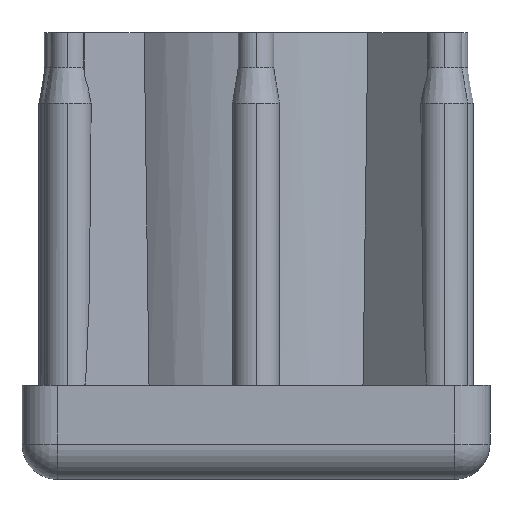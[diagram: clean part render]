
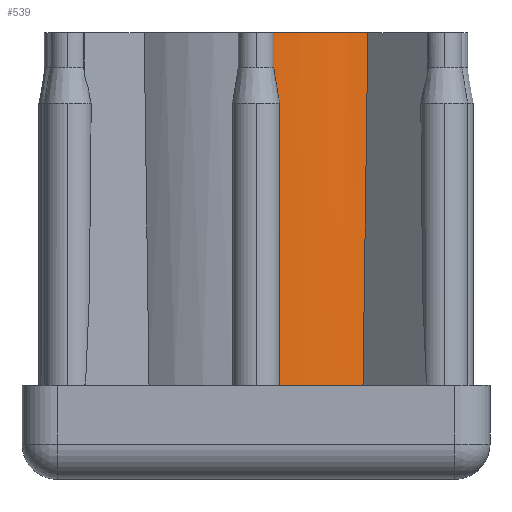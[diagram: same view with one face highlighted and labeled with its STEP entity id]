
A CAD part, left-side view. The second image highlights one B-rep face of the part: STEP entity #539.
In plain terms, the highlighted cylindrical face has radius 15 mm (diameter 30 mm), a partial arc.
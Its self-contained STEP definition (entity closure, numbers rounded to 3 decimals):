
#35 = AXIS2_PLACEMENT_3D ( 'NONE', #254, #3455, #2035 ) ;
#51 = VERTEX_POINT ( 'NONE', #741 ) ;
#65 = AXIS2_PLACEMENT_3D ( 'NONE', #1742, #2823, #3172 ) ;
#166 = ORIENTED_EDGE ( 'NONE', *, *, #4177, .F. ) ;
#254 = CARTESIAN_POINT ( 'NONE',  ( 0., 0., 0. ) ) ;
#310 = CARTESIAN_POINT ( 'NONE',  ( -11.599, -9.511, 30. ) ) ;
#427 = DIRECTION ( 'NONE',  ( -1., 0., 0. ) ) ;
#431 = VERTEX_POINT ( 'NONE', #3173 ) ;
#539 = ADVANCED_FACE ( 'NONE', ( #3054 ), #2441, .T. ) ;
#623 = CIRCLE ( 'NONE', #65, 15. ) ;
#741 = CARTESIAN_POINT ( 'NONE',  ( -11.926, -9.098, 0. ) ) ;
#819 = EDGE_LOOP ( 'NONE', ( #2950, #1706, #166, #4489 ) ) ;
#1323 = EDGE_CURVE ( 'NONE', #431, #51, #3972, .T. ) ;
#1666 =( BOUNDED_CURVE ( )  B_SPLINE_CURVE ( 3, ( #310, #2768, #1682, #1738 ),
 .UNSPECIFIED., .F., .T. ) 
 B_SPLINE_CURVE_WITH_KNOTS ( ( 4, 4 ),
 ( -1., 0. ),
 .UNSPECIFIED. ) 
 CURVE ( )  GEOMETRIC_REPRESENTATION_ITEM ( )  RATIONAL_B_SPLINE_CURVE ( ( 1., 1., 1., 1. ) ) 
 REPRESENTATION_ITEM ( '' )  );
#1682 = CARTESIAN_POINT ( 'NONE',  ( -11.82, -9.237, 9.979 ) ) ;
#1706 = ORIENTED_EDGE ( 'NONE', *, *, #1323, .T. ) ;
#1738 = CARTESIAN_POINT ( 'NONE',  ( -11.926, -9.098, 0. ) ) ;
#1742 = CARTESIAN_POINT ( 'NONE',  ( 0., 0., 30. ) ) ;
#1854 = DIRECTION ( 'NONE',  ( 0., 0., -1. ) ) ;
#2035 = DIRECTION ( 'NONE',  ( 1., 0., 0. ) ) ;
#2046 = AXIS2_PLACEMENT_3D ( 'NONE', #2588, #1854, #427 ) ;
#2234 = CARTESIAN_POINT ( 'NONE',  ( -14.91, -1.651, 19.98 ) ) ;
#2441 = CYLINDRICAL_SURFACE ( 'NONE', #2046, 15. ) ;
#2563 = EDGE_CURVE ( 'NONE', #3719, #3454, #623, .T. ) ;
#2588 = CARTESIAN_POINT ( 'NONE',  ( 0., 0., 30. ) ) ;
#2768 = CARTESIAN_POINT ( 'NONE',  ( -11.71, -9.375, 19.98 ) ) ;
#2823 = DIRECTION ( 'NONE',  ( 0., 0., 1. ) ) ;
#2905 = CARTESIAN_POINT ( 'NONE',  ( -14.89, -1.826, 9.979 ) ) ;
#2950 = ORIENTED_EDGE ( 'NONE', *, *, #3934, .F. ) ;
#3054 = FACE_OUTER_BOUND ( 'NONE', #819, .T. ) ;
#3172 = DIRECTION ( 'NONE',  ( 1., 0., 0. ) ) ;
#3173 = CARTESIAN_POINT ( 'NONE',  ( -14.866, -2., 0. ) ) ;
#3279 = CARTESIAN_POINT ( 'NONE',  ( -14.866, -2., 0. ) ) ;
#3454 = VERTEX_POINT ( 'NONE', #4009 ) ;
#3455 = DIRECTION ( 'NONE',  ( 0., 0., 1. ) ) ;
#3719 = VERTEX_POINT ( 'NONE', #4160 ) ;
#3861 =( BOUNDED_CURVE ( )  B_SPLINE_CURVE ( 3, ( #3279, #2905, #2234, #3935 ),
 .UNSPECIFIED., .F., .T. ) 
 B_SPLINE_CURVE_WITH_KNOTS ( ( 4, 4 ),
 ( -1., 0. ),
 .UNSPECIFIED. ) 
 CURVE ( )  GEOMETRIC_REPRESENTATION_ITEM ( )  RATIONAL_B_SPLINE_CURVE ( ( 1., 1., 1., 1. ) ) 
 REPRESENTATION_ITEM ( '' )  );
#3934 = EDGE_CURVE ( 'NONE', #431, #3719, #3861, .T. ) ;
#3935 = CARTESIAN_POINT ( 'NONE',  ( -14.927, -1.476, 30. ) ) ;
#3972 = CIRCLE ( 'NONE', #35, 15. ) ;
#4009 = CARTESIAN_POINT ( 'NONE',  ( -11.599, -9.511, 30. ) ) ;
#4160 = CARTESIAN_POINT ( 'NONE',  ( -14.927, -1.476, 30. ) ) ;
#4177 = EDGE_CURVE ( 'NONE', #3454, #51, #1666, .T. ) ;
#4489 = ORIENTED_EDGE ( 'NONE', *, *, #2563, .F. ) ;
